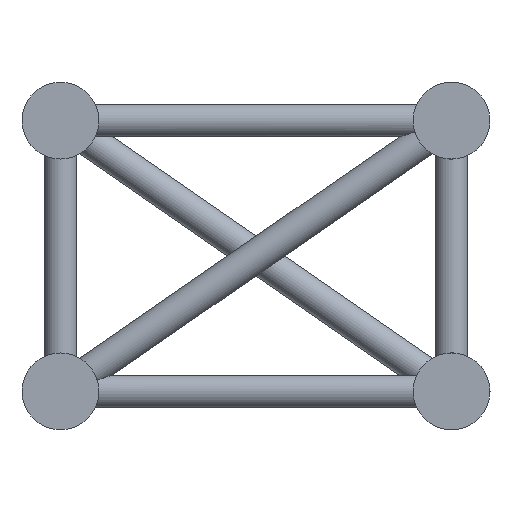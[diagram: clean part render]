
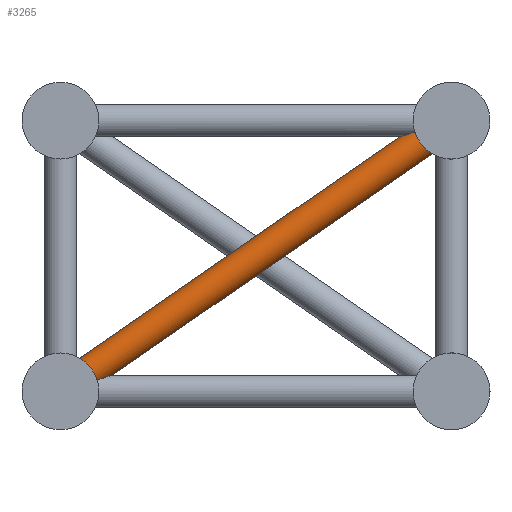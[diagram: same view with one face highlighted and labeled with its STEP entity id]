
A CAD part, left-side view. The second image highlights one B-rep face of the part: STEP entity #3265.
In plain terms, the highlighted cylindrical face has radius 12.5 mm (diameter 25 mm), a full revolution.
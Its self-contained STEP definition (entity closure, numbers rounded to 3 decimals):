
#23=ELLIPSE('',#3551,41.923,12.5);
#24=ELLIPSE('',#3553,41.923,12.5);
#145=FACE_BOUND('',#880,.T.);
#535=FACE_OUTER_BOUND('',#879,.T.);
#879=EDGE_LOOP('',(#2377,#2378));
#880=EDGE_LOOP('',(#2379,#2380));
#1217=CIRCLE('',#3552,12.5);
#1218=CIRCLE('',#3554,12.5);
#1635=VERTEX_POINT('',#8242);
#1636=VERTEX_POINT('',#8243);
#1637=VERTEX_POINT('',#8246);
#1638=VERTEX_POINT('',#8247);
#1903=EDGE_CURVE('',#1635,#1636,#23,.T.);
#1904=EDGE_CURVE('',#1636,#1635,#1217,.T.);
#1905=EDGE_CURVE('',#1637,#1638,#24,.T.);
#1906=EDGE_CURVE('',#1638,#1637,#1218,.T.);
#2377=ORIENTED_EDGE('',*,*,#1903,.F.);
#2378=ORIENTED_EDGE('',*,*,#1904,.F.);
#2379=ORIENTED_EDGE('',*,*,#1905,.F.);
#2380=ORIENTED_EDGE('',*,*,#1906,.F.);
#2909=CYLINDRICAL_SURFACE('',#3550,12.5);
#3265=ADVANCED_FACE('',(#535,#145),#2909,.T.);
#3550=AXIS2_PLACEMENT_3D('',#8241,#4114,#4115);
#3551=AXIS2_PLACEMENT_3D('',#8244,#4116,#4117);
#3552=AXIS2_PLACEMENT_3D('',#8245,#4118,#4119);
#3553=AXIS2_PLACEMENT_3D('',#8248,#4120,#4121);
#3554=AXIS2_PLACEMENT_3D('',#8249,#4122,#4123);
#4114=DIRECTION('center_axis',(0.,-0.822,
0.569));
#4115=DIRECTION('ref_axis',(1.,0.,0.));
#4116=DIRECTION('center_axis',(0.,0.298,
0.955));
#4117=DIRECTION('ref_axis',(0.,0.955,-0.298));
#4118=DIRECTION('center_axis',(0.,-0.822,
0.569));
#4119=DIRECTION('ref_axis',(1.,0.,0.));
#4120=DIRECTION('center_axis',(0.,-0.298,
-0.955));
#4121=DIRECTION('ref_axis',(0.,0.955,-0.298));
#4122=DIRECTION('center_axis',(0.,0.822,-0.569));
#4123=DIRECTION('ref_axis',(1.,0.,0.));
#8241=CARTESIAN_POINT('Origin',(92.5,278.173,-192.581));
#8242=CARTESIAN_POINT('',(102.177,25.331,-7.913));
#8243=CARTESIAN_POINT('',(82.823,25.331,-7.913));
#8244=CARTESIAN_POINT('Origin',(92.5,0.,
0.));
#8245=CARTESIAN_POINT('Origin',(92.5,20.827,-14.419));
#8246=CARTESIAN_POINT('',(102.177,273.669,-199.087));
#8247=CARTESIAN_POINT('',(82.823,273.669,-199.087));
#8248=CARTESIAN_POINT('Origin',(92.5,299.,-207.));
#8249=CARTESIAN_POINT('Origin',(92.5,278.173,-192.581));
